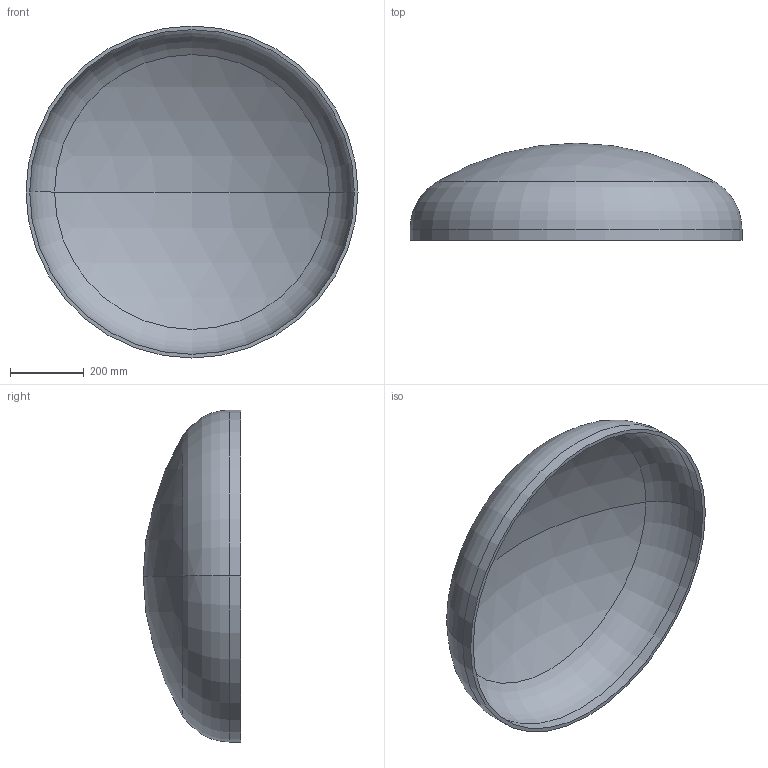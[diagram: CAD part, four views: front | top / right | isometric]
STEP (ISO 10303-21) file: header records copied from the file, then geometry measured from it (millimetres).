
FILE_DESCRIPTION (( 'STEP AP203' ), '1' );
FILE_NAME ('DIN 28013 Korbbogenform_-_Boden DIN 28013 - 900 x 30 - I - s=10.step', '2016-07-01T08:25:47', ( '' ), ( '' ), 'SwSTEP 2.0', 'SolidWorks 2013', '' );
FILE_SCHEMA (( 'CONFIG_CONTROL_DESIGN' ));
Length unit declared in the file: millimetre
Products named in the file (1): DIN 28013 Korbbogenform_-_Boden DIN 28013 - 900 x 30 - I - s=10
Bounding box: 900 x 263.61 x 900 mm (x, y, z)
Volume: 9538415.2 mm3; surface area: 1935852 mm2
Topology: 1 solids, 1 shells, 13 faces, 24 edges, 14 vertices
Faces by surface type: torus 4, cylinder 4, sphere 4, plane 1
Entity records: 407 total; most frequent: DIRECTION 72, CARTESIAN_POINT 52, ORIENTED_EDGE 48, AXIS2_PLACEMENT_3D 34, EDGE_CURVE 24, CIRCLE 20, EDGE_LOOP 14, VERTEX_POINT 14
